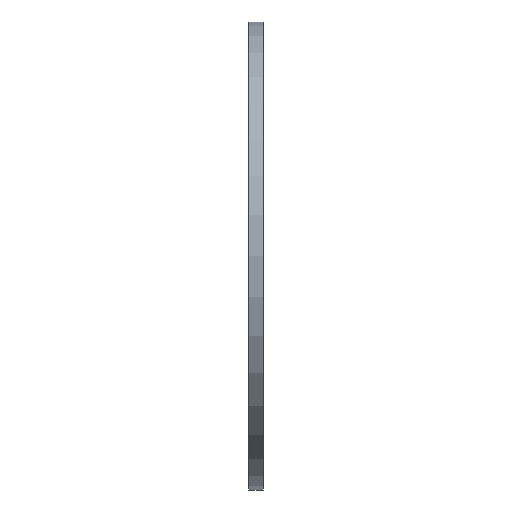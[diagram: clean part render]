
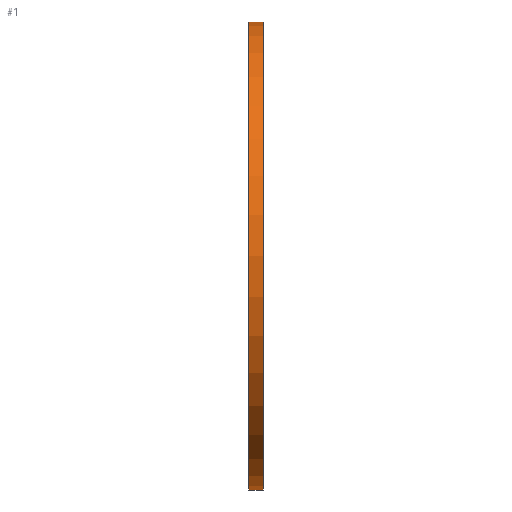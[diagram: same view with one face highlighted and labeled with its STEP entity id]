
A CAD part, left-side view. The second image highlights one B-rep face of the part: STEP entity #1.
In plain terms, the highlighted cylindrical face has radius 375 mm (diameter 750 mm), a partial arc.
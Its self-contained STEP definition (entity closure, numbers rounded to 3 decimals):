
#1 = ADVANCED_FACE ( 'NONE', ( #74 ), #1521, .T. ) ;
#16 = EDGE_CURVE ( 'NONE', #542, #37, #1605, .T. ) ;
#37 = VERTEX_POINT ( 'NONE', #1576 ) ;
#74 = FACE_OUTER_BOUND ( 'NONE', #1536, .T. ) ;
#83 = DIRECTION ( 'NONE',  ( 0., -1., 0. ) ) ;
#199 = CARTESIAN_POINT ( 'NONE',  ( 0., 24., 0. ) ) ;
#243 = DIRECTION ( 'NONE',  ( 0., 0., -1. ) ) ;
#318 = VERTEX_POINT ( 'NONE', #794 ) ;
#319 = CARTESIAN_POINT ( 'NONE',  ( 0., 0., 375. ) ) ;
#329 = DIRECTION ( 'NONE',  ( 0., 0., -1. ) ) ;
#330 = LINE ( 'NONE', #1578, #1362 ) ;
#362 = DIRECTION ( 'NONE',  ( 0., 0., -1. ) ) ;
#479 = DIRECTION ( 'NONE',  ( 0., -1., 0. ) ) ;
#542 = VERTEX_POINT ( 'NONE', #1234 ) ;
#641 = DIRECTION ( 'NONE',  ( 0., -1., 0. ) ) ;
#643 = EDGE_CURVE ( 'NONE', #1410, #542, #1443, .T. ) ;
#708 = ORIENTED_EDGE ( 'NONE', *, *, #16, .F. ) ;
#769 = EDGE_CURVE ( 'NONE', #1410, #318, #1131, .T. ) ;
#794 = CARTESIAN_POINT ( 'NONE',  ( 0., 24., -375. ) ) ;
#865 = ORIENTED_EDGE ( 'NONE', *, *, #943, .T. ) ;
#898 = DIRECTION ( 'NONE',  ( 0., -1., 0. ) ) ;
#943 = EDGE_CURVE ( 'NONE', #318, #37, #330, .T. ) ;
#970 = ORIENTED_EDGE ( 'NONE', *, *, #769, .T. ) ;
#992 = DIRECTION ( 'NONE',  ( 0., -1., 0. ) ) ;
#1128 = CARTESIAN_POINT ( 'NONE',  ( 0., 24., 375. ) ) ;
#1131 = CIRCLE ( 'NONE', #1338, 375. ) ;
#1163 = CARTESIAN_POINT ( 'NONE',  ( 0., 0., 0. ) ) ;
#1234 = CARTESIAN_POINT ( 'NONE',  ( 0., 0., 375. ) ) ;
#1269 = AXIS2_PLACEMENT_3D ( 'NONE', #1163, #641, #362 ) ;
#1338 = AXIS2_PLACEMENT_3D ( 'NONE', #199, #479, #329 ) ;
#1362 = VECTOR ( 'NONE', #898, 1000. ) ;
#1410 = VERTEX_POINT ( 'NONE', #1128 ) ;
#1442 = AXIS2_PLACEMENT_3D ( 'NONE', #1714, #83, #243 ) ;
#1443 = LINE ( 'NONE', #319, #1465 ) ;
#1465 = VECTOR ( 'NONE', #992, 1000. ) ;
#1521 = CYLINDRICAL_SURFACE ( 'NONE', #1442, 375. ) ;
#1536 = EDGE_LOOP ( 'NONE', ( #1560, #970, #865, #708 ) ) ;
#1560 = ORIENTED_EDGE ( 'NONE', *, *, #643, .F. ) ;
#1576 = CARTESIAN_POINT ( 'NONE',  ( 0., 0., -375. ) ) ;
#1578 = CARTESIAN_POINT ( 'NONE',  ( 0., 0., -375. ) ) ;
#1605 = CIRCLE ( 'NONE', #1269, 375. ) ;
#1714 = CARTESIAN_POINT ( 'NONE',  ( 0., 0., 0. ) ) ;
